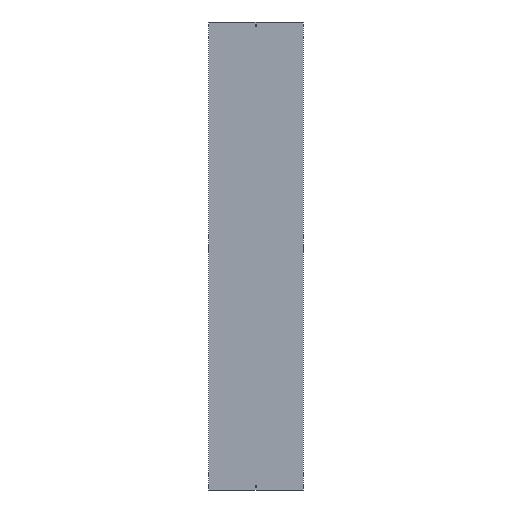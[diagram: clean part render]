
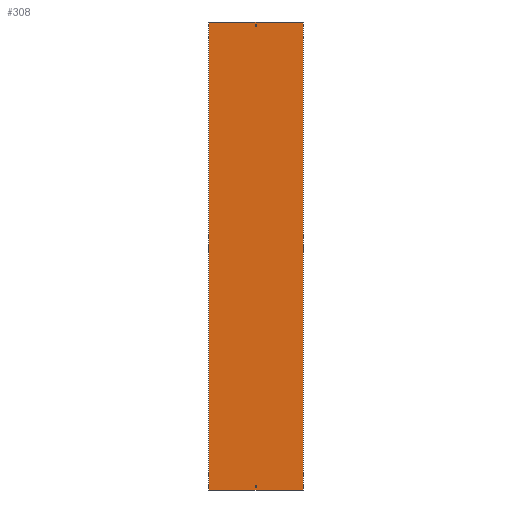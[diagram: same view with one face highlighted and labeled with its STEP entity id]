
A CAD part, front view. The second image highlights one B-rep face of the part: STEP entity #308.
In plain terms, the highlighted planar face has unit normal (0, -1, 0).
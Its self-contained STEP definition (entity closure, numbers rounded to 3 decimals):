
#9 = DIRECTION ( 'NONE',  ( 1., 0., 0. ) ) ;
#16 = CARTESIAN_POINT ( 'NONE',  ( -202., 0., 1000. ) ) ;
#51 = VERTEX_POINT ( 'NONE', #777 ) ;
#67 = PLANE ( 'NONE',  #1081 ) ;
#70 = EDGE_LOOP ( 'NONE', ( #610, #1000, #701, #1606 ) ) ;
#74 = CARTESIAN_POINT ( 'NONE',  ( -3.25, 0., 979. ) ) ;
#96 = FACE_BOUND ( 'NONE', #540, .T. ) ;
#117 = VERTEX_POINT ( 'NONE', #503 ) ;
#156 = LINE ( 'NONE', #561, #1329 ) ;
#186 = DIRECTION ( 'NONE',  ( -1., 0., 0. ) ) ;
#192 = EDGE_CURVE ( 'NONE', #688, #1447, #960, .T. ) ;
#224 = FACE_OUTER_BOUND ( 'NONE', #948, .T. ) ;
#228 = LINE ( 'NONE', #1509, #569 ) ;
#233 = DIRECTION ( 'NONE',  ( 0., 0., -1. ) ) ;
#237 = VERTEX_POINT ( 'NONE', #1184 ) ;
#245 = ORIENTED_EDGE ( 'NONE', *, *, #1176, .T. ) ;
#246 = LINE ( 'NONE', #1157, #388 ) ;
#285 = CARTESIAN_POINT ( 'NONE',  ( -202., 0., -1000. ) ) ;
#286 = VERTEX_POINT ( 'NONE', #332 ) ;
#308 = ADVANCED_FACE ( 'NONE', ( #224, #1254, #96 ), #67, .F. ) ;
#331 = VERTEX_POINT ( 'NONE', #841 ) ;
#332 = CARTESIAN_POINT ( 'NONE',  ( 202., 0., -1000. ) ) ;
#379 = VERTEX_POINT ( 'NONE', #683 ) ;
#388 = VECTOR ( 'NONE', #886, 1000. ) ;
#399 = VERTEX_POINT ( 'NONE', #1060 ) ;
#412 = VECTOR ( 'NONE', #417, 1000. ) ;
#417 = DIRECTION ( 'NONE',  ( 1., 0., 0. ) ) ;
#439 = VECTOR ( 'NONE', #233, 1000. ) ;
#442 = CARTESIAN_POINT ( 'NONE',  ( 3.25, 0., -979. ) ) ;
#467 = DIRECTION ( 'NONE',  ( 0., 1., 0. ) ) ;
#474 = CARTESIAN_POINT ( 'NONE',  ( 202., 0., 1000. ) ) ;
#503 = CARTESIAN_POINT ( 'NONE',  ( -202., 0., -1000. ) ) ;
#524 = EDGE_CURVE ( 'NONE', #1280, #588, #746, .T. ) ;
#540 = EDGE_LOOP ( 'NONE', ( #1177, #1550, #905, #245 ) ) ;
#561 = CARTESIAN_POINT ( 'NONE',  ( -3.25, 0., 988. ) ) ;
#569 = VECTOR ( 'NONE', #1359, 1000. ) ;
#572 = EDGE_CURVE ( 'NONE', #379, #331, #860, .T. ) ;
#574 = VERTEX_POINT ( 'NONE', #1622 ) ;
#588 = VERTEX_POINT ( 'NONE', #1381 ) ;
#591 = DIRECTION ( 'NONE',  ( 0., 0., 1. ) ) ;
#595 = VECTOR ( 'NONE', #1510, 1000. ) ;
#604 = DIRECTION ( 'NONE',  ( 1., 0., 0. ) ) ;
#610 = ORIENTED_EDGE ( 'NONE', *, *, #1012, .F. ) ;
#620 = LINE ( 'NONE', #1159, #1600 ) ;
#642 = EDGE_CURVE ( 'NONE', #331, #688, #1011, .T. ) ;
#668 = EDGE_CURVE ( 'NONE', #237, #117, #246, .T. ) ;
#683 = CARTESIAN_POINT ( 'NONE',  ( -3.25, 0., -988. ) ) ;
#688 = VERTEX_POINT ( 'NONE', #442 ) ;
#693 = EDGE_CURVE ( 'NONE', #588, #51, #156, .T. ) ;
#701 = ORIENTED_EDGE ( 'NONE', *, *, #693, .F. ) ;
#727 = CARTESIAN_POINT ( 'NONE',  ( 3.25, 0., -988. ) ) ;
#740 = EDGE_CURVE ( 'NONE', #237, #399, #1180, .T. ) ;
#746 = LINE ( 'NONE', #1485, #595 ) ;
#751 = EDGE_CURVE ( 'NONE', #117, #286, #1459, .T. ) ;
#777 = CARTESIAN_POINT ( 'NONE',  ( -3.25, 0., 988. ) ) ;
#780 = DIRECTION ( 'NONE',  ( -1., 0., 0. ) ) ;
#841 = CARTESIAN_POINT ( 'NONE',  ( -3.25, 0., -979. ) ) ;
#860 = LINE ( 'NONE', #1239, #1630 ) ;
#886 = DIRECTION ( 'NONE',  ( 0., 0., -1. ) ) ;
#905 = ORIENTED_EDGE ( 'NONE', *, *, #192, .T. ) ;
#948 = EDGE_LOOP ( 'NONE', ( #969, #1115, #1106, #1093 ) ) ;
#960 = LINE ( 'NONE', #1590, #1218 ) ;
#969 = ORIENTED_EDGE ( 'NONE', *, *, #751, .T. ) ;
#981 = DIRECTION ( 'NONE',  ( -1., 0., 0. ) ) ;
#995 = LINE ( 'NONE', #474, #439 ) ;
#1000 = ORIENTED_EDGE ( 'NONE', *, *, #1422, .F. ) ;
#1011 = LINE ( 'NONE', #1431, #1628 ) ;
#1012 = EDGE_CURVE ( 'NONE', #574, #1280, #1512, .T. ) ;
#1060 = CARTESIAN_POINT ( 'NONE',  ( 202., 0., 1000. ) ) ;
#1081 = AXIS2_PLACEMENT_3D ( 'NONE', #1653, #467, #981 ) ;
#1093 = ORIENTED_EDGE ( 'NONE', *, *, #668, .T. ) ;
#1101 = EDGE_CURVE ( 'NONE', #399, #286, #995, .T. ) ;
#1106 = ORIENTED_EDGE ( 'NONE', *, *, #740, .F. ) ;
#1115 = ORIENTED_EDGE ( 'NONE', *, *, #1101, .F. ) ;
#1120 = VECTOR ( 'NONE', #604, 1000. ) ;
#1157 = CARTESIAN_POINT ( 'NONE',  ( -202., 0., 1000. ) ) ;
#1159 = CARTESIAN_POINT ( 'NONE',  ( -3.25, 0., -988. ) ) ;
#1176 = EDGE_CURVE ( 'NONE', #1447, #379, #620, .T. ) ;
#1177 = ORIENTED_EDGE ( 'NONE', *, *, #572, .T. ) ;
#1180 = LINE ( 'NONE', #16, #412 ) ;
#1184 = CARTESIAN_POINT ( 'NONE',  ( -202., 0., 1000. ) ) ;
#1201 = DIRECTION ( 'NONE',  ( 1., 0., 0. ) ) ;
#1218 = VECTOR ( 'NONE', #1322, 1000. ) ;
#1239 = CARTESIAN_POINT ( 'NONE',  ( -3.25, 0., -988. ) ) ;
#1254 = FACE_BOUND ( 'NONE', #70, .T. ) ;
#1280 = VERTEX_POINT ( 'NONE', #1343 ) ;
#1304 = VECTOR ( 'NONE', #1201, 1000. ) ;
#1322 = DIRECTION ( 'NONE',  ( 0., 0., -1. ) ) ;
#1329 = VECTOR ( 'NONE', #186, 1000. ) ;
#1343 = CARTESIAN_POINT ( 'NONE',  ( 3.25, 0., 979. ) ) ;
#1359 = DIRECTION ( 'NONE',  ( 0., 0., -1. ) ) ;
#1381 = CARTESIAN_POINT ( 'NONE',  ( 3.25, 0., 988. ) ) ;
#1422 = EDGE_CURVE ( 'NONE', #51, #574, #228, .T. ) ;
#1431 = CARTESIAN_POINT ( 'NONE',  ( -3.25, 0., -979. ) ) ;
#1447 = VERTEX_POINT ( 'NONE', #727 ) ;
#1459 = LINE ( 'NONE', #285, #1304 ) ;
#1485 = CARTESIAN_POINT ( 'NONE',  ( 3.25, 0., 988. ) ) ;
#1509 = CARTESIAN_POINT ( 'NONE',  ( -3.25, 0., 988. ) ) ;
#1510 = DIRECTION ( 'NONE',  ( 0., 0., 1. ) ) ;
#1512 = LINE ( 'NONE', #74, #1120 ) ;
#1550 = ORIENTED_EDGE ( 'NONE', *, *, #642, .T. ) ;
#1590 = CARTESIAN_POINT ( 'NONE',  ( 3.25, 0., -988. ) ) ;
#1600 = VECTOR ( 'NONE', #780, 1000. ) ;
#1606 = ORIENTED_EDGE ( 'NONE', *, *, #524, .F. ) ;
#1622 = CARTESIAN_POINT ( 'NONE',  ( -3.25, 0., 979. ) ) ;
#1628 = VECTOR ( 'NONE', #9, 1000. ) ;
#1630 = VECTOR ( 'NONE', #591, 1000. ) ;
#1653 = CARTESIAN_POINT ( 'NONE',  ( -202., 0., 1000. ) ) ;
